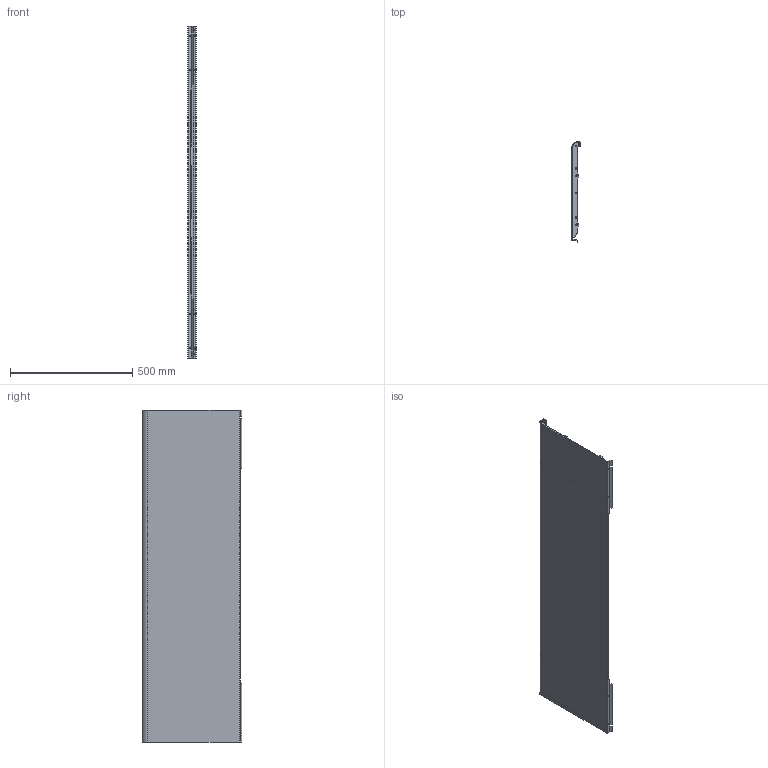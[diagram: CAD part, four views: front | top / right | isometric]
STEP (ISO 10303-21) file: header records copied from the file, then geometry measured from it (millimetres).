
FILE_DESCRIPTION(/* description */ ('Unknown'),/* implementation_level */ '2;1');
FILE_NAME(/* name */ 'DSN1127004',/* time_stamp */ '2026-06-22T11:43:04+02:00',/* author */ ('Unknown'),/* organization */ ('Unknown'),/* preprocessor_version */ 'ST-DEVELOPER v20',/* originating_system */ 'Solid Edge',/* authorisation */ 'Unknown');
FILE_SCHEMA (('AUTOMOTIVE_DESIGN {1 0 10303 214 3 1 1}'));
Length unit declared in the file: millimetre
Products named in the file (10): DSN1127004; DSN1123163; DSN1123174; DSN1123125; FilletWeld_1; DSN1126320; 016562 Blindnitmutter M5 HUKO 30; FilletWeld_2; FilletWeld_3; ExtrudedProtrusion_1
Assembly tree (15 placements, depth 3):
  DSN1127004
    DSN1123163
      DSN1123174  x4
      DSN1123125
      FilletWeld_1
      DSN1126320
      016562 Blindnitmutter M5 HUKO 30  x4
      FilletWeld_2
      FilletWeld_3
      ExtrudedProtrusion_1
Bounding box: 34.4 x 407.67 x 1357.5 mm (x, y, z)
Volume: 1062116.6 mm3; surface area: 1359417.4 mm2
Topology: 33 solids, 33 shells, 504 faces, 1201 edges, 771 vertices
Faces by surface type: plane 434, cylinder 62, cone 8
Full cylindrical faces by diameter (mm): 4.2 x4, 4.5 x8, 5.3 x4, 6 x12, 8 x6, 8.4 x8
Entity records: 8266 total; most frequent: CARTESIAN_POINT 1449, DIRECTION 1323, ORIENTED_EDGE 1280, EDGE_CURVE 640, LINE 553, VECTOR 553, VERTEX_POINT 427, AXIS2_PLACEMENT_3D 385
